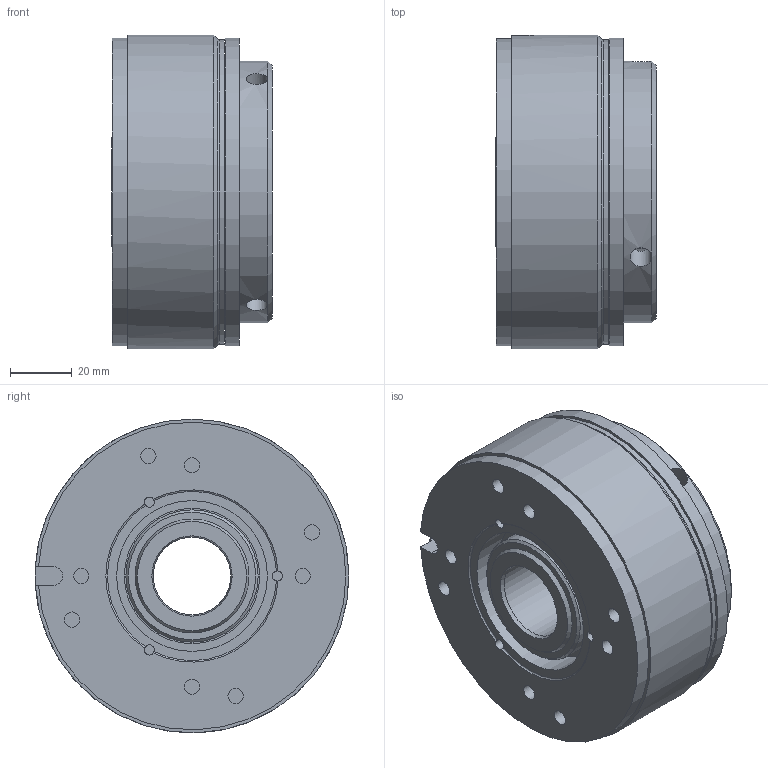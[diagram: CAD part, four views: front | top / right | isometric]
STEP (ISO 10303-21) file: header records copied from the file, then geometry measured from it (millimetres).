
FILE_DESCRIPTION (( 'STEP AP203' ), '1' );
FILE_NAME ('86_61110P00-0001_Idx_A.STEP', '2025-02-14T09:22:37', ( '' ), ( '' ), 'SwSTEP 2.0', 'SolidWorks 2022', '' );
FILE_SCHEMA (( 'CONFIG_CONTROL_DESIGN' ));
Length unit declared in the file: millimetre
Products named in the file (1): 86_61110P00-0001_Idx_A
Bounding box: 52.11 x 102 x 102 mm (x, y, z)
Volume: 349532.4 mm3; surface area: 61505.3 mm2
Topology: 2 solids, 2 shells, 67 faces, 140 edges, 90 vertices
Faces by surface type: cylinder 30, plane 27, cone 6, torus 4
Full cylindrical faces by diameter (mm): 3.3 x3, 5 x11, 7 x3, 25.2 x1, 25.4 x1, 30 x1, 43 x1, 44 x1, 49 x1, 78.3 x1, 85 x1, 99 x1, 100 x1, 102 x1
Entity records: 2039 total; most frequent: CARTESIAN_POINT 643, DIRECTION 294, ORIENTED_EDGE 194, AXIS2_PLACEMENT_3D 141, EDGE_LOOP 131, EDGE_CURVE 97, FACE_OUTER_BOUND 96, VERTEX_POINT 82
